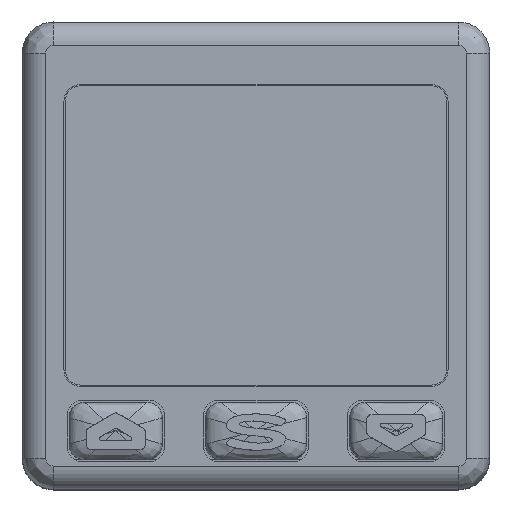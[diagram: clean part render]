
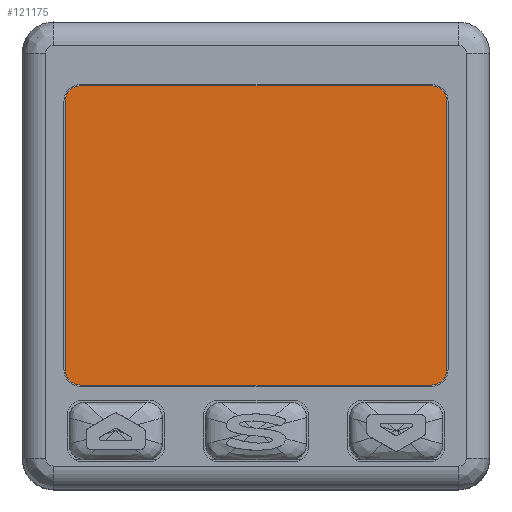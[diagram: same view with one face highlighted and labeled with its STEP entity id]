
A CAD part, top view. The second image highlights one B-rep face of the part: STEP entity #121175.
In plain terms, the highlighted planar face has unit normal (0, 0, 1).
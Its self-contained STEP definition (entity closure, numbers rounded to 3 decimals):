
#40818=CARTESIAN_POINT('',(11.25,-7.3,21.1));
#40819=DIRECTION('',(0.,0.,-1.));
#40820=DIRECTION('',(1.,0.,0.));
#40821=AXIS2_PLACEMENT_3D('',#40818,#40819,#40820);
#40823=DIRECTION('',(1.,0.,0.));
#40824=VECTOR('',#40823,22.5);
#40825=CARTESIAN_POINT('',(-11.25,-8.38,21.1));
#40826=LINE('',#40825,#40824);
#40827=CARTESIAN_POINT('',(-11.25,-7.3,21.1));
#40828=DIRECTION('',(0.,0.,-1.));
#40829=DIRECTION('',(0.,-1.,0.));
#40830=AXIS2_PLACEMENT_3D('',#40827,#40828,#40829);
#40832=DIRECTION('',(0.,1.,0.));
#40833=VECTOR('',#40832,17.2);
#40834=CARTESIAN_POINT('',(-12.33,-7.3,21.1));
#40835=LINE('',#40834,#40833);
#40836=CARTESIAN_POINT('',(-11.25,9.9,21.1));
#40837=DIRECTION('',(0.,0.,-1.));
#40838=DIRECTION('',(-1.,0.,0.));
#40839=AXIS2_PLACEMENT_3D('',#40836,#40837,#40838);
#40841=DIRECTION('',(1.,0.,0.));
#40842=VECTOR('',#40841,22.5);
#40843=CARTESIAN_POINT('',(-11.25,10.98,21.1));
#40844=LINE('',#40843,#40842);
#40845=CARTESIAN_POINT('',(11.25,9.9,21.1));
#40846=DIRECTION('',(0.,0.,-1.));
#40847=DIRECTION('',(0.,1.,0.));
#40848=AXIS2_PLACEMENT_3D('',#40845,#40846,#40847);
#40850=DIRECTION('',(0.,1.,0.));
#40851=VECTOR('',#40850,17.2);
#40852=CARTESIAN_POINT('',(12.33,-7.3,21.1));
#40853=LINE('',#40852,#40851);
#61792=CARTESIAN_POINT('',(12.33,-7.3,21.1));
#61793=CARTESIAN_POINT('',(11.25,-8.38,21.1));
#61794=VERTEX_POINT('',#61792);
#61795=VERTEX_POINT('',#61793);
#61796=CARTESIAN_POINT('',(12.33,9.9,21.1));
#61797=VERTEX_POINT('',#61796);
#61798=CARTESIAN_POINT('',(-11.25,10.98,21.1));
#61799=CARTESIAN_POINT('',(11.25,10.98,21.1));
#61800=VERTEX_POINT('',#61798);
#61801=VERTEX_POINT('',#61799);
#61802=CARTESIAN_POINT('',(-11.25,-8.38,21.1));
#61803=CARTESIAN_POINT('',(-12.33,-7.3,21.1));
#61804=VERTEX_POINT('',#61802);
#61805=VERTEX_POINT('',#61803);
#61806=CARTESIAN_POINT('',(-12.33,9.9,21.1));
#61807=VERTEX_POINT('',#61806);
#121153=CARTESIAN_POINT('',(0.,2.5,21.1));
#121154=DIRECTION('',(0.,0.,1.));
#121155=DIRECTION('',(1.,0.,0.));
#121156=AXIS2_PLACEMENT_3D('',#121153,#121154,#121155);
#121157=PLANE('',#121156);
#121159=ORIENTED_EDGE('',*,*,#121158,.T.);
#121161=ORIENTED_EDGE('',*,*,#121160,.F.);
#121163=ORIENTED_EDGE('',*,*,#121162,.T.);
#121164=ORIENTED_EDGE('',*,*,#121143,.T.);
#121166=ORIENTED_EDGE('',*,*,#121165,.T.);
#121168=ORIENTED_EDGE('',*,*,#121167,.T.);
#121170=ORIENTED_EDGE('',*,*,#121169,.T.);
#121172=ORIENTED_EDGE('',*,*,#121171,.F.);
#121173=EDGE_LOOP('',(#121159,#121161,#121163,#121164,#121166,#121168,#121170,
#121172));
#121174=FACE_OUTER_BOUND('',#121173,.F.);
#121175=ADVANCED_FACE('',(#121174),#121157,.T.);
#40822=CIRCLE('',#40821,1.08);
#40831=CIRCLE('',#40830,1.08);
#40840=CIRCLE('',#40839,1.08);
#40849=CIRCLE('',#40848,1.08);
#121143=EDGE_CURVE('',#61805,#61807,#40835,.T.);
#121158=EDGE_CURVE('',#61794,#61795,#40822,.T.);
#121160=EDGE_CURVE('',#61804,#61795,#40826,.T.);
#121162=EDGE_CURVE('',#61804,#61805,#40831,.T.);
#121165=EDGE_CURVE('',#61807,#61800,#40840,.T.);
#121167=EDGE_CURVE('',#61800,#61801,#40844,.T.);
#121169=EDGE_CURVE('',#61801,#61797,#40849,.T.);
#121171=EDGE_CURVE('',#61794,#61797,#40853,.T.);
